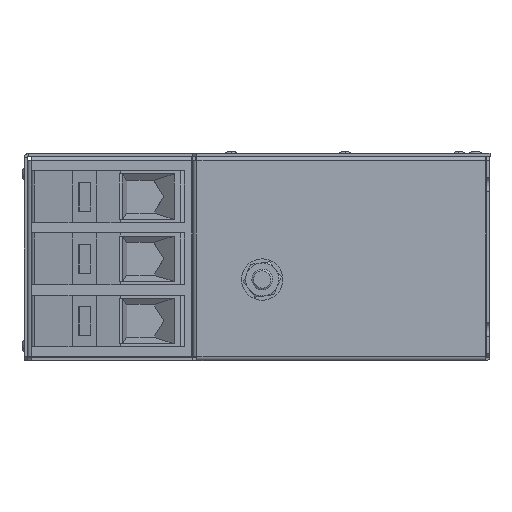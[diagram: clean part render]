
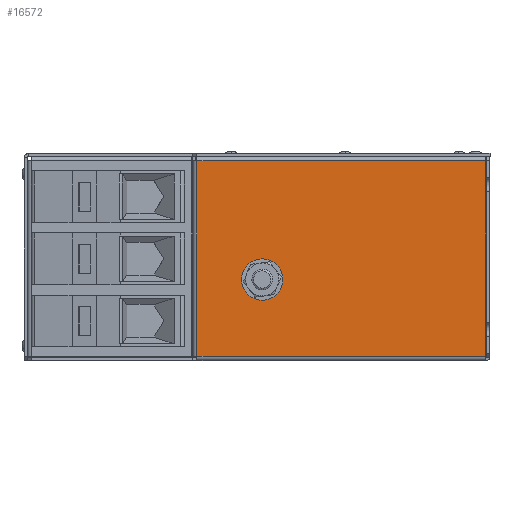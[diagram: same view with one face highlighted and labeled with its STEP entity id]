
A CAD part, left-side view. The second image highlights one B-rep face of the part: STEP entity #16572.
In plain terms, the highlighted planar face has unit normal (-1, 0, 0).
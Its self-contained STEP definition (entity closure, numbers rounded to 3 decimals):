
#55 = DIRECTION ( 'NONE',  ( 0., 0., 1. ) ) ;
#647 = EDGE_LOOP ( 'NONE', ( #3849, #12238 ) ) ;
#891 = VERTEX_POINT ( 'NONE', #7997 ) ;
#1794 = VERTEX_POINT ( 'NONE', #3726 ) ;
#2110 = VECTOR ( 'NONE', #55, 1000. ) ;
#2118 = DIRECTION ( 'NONE',  ( 1., 0., 0. ) ) ;
#2124 = ORIENTED_EDGE ( 'NONE', *, *, #4288, .T. ) ;
#2685 = LINE ( 'NONE', #13829, #11761 ) ;
#3524 = FACE_BOUND ( 'NONE', #647, .T. ) ;
#3726 = CARTESIAN_POINT ( 'NONE',  ( -133.5, 140., 46.5 ) ) ;
#3849 = ORIENTED_EDGE ( 'NONE', *, *, #16853, .T. ) ;
#3901 = EDGE_CURVE ( 'NONE', #9492, #11484, #6508, .T. ) ;
#4288 = EDGE_CURVE ( 'NONE', #891, #1794, #2685, .T. ) ;
#4393 = LINE ( 'NONE', #11983, #2110 ) ;
#5232 = CARTESIAN_POINT ( 'NONE',  ( -133.5, 108.5, -5.854 ) ) ;
#5676 = DIRECTION ( 'NONE',  ( 0., 1., 0. ) ) ;
#6413 = ORIENTED_EDGE ( 'NONE', *, *, #16377, .T. ) ;
#6508 = LINE ( 'NONE', #9849, #7766 ) ;
#6868 = CIRCLE ( 'NONE', #7032, 5. ) ;
#7032 = AXIS2_PLACEMENT_3D ( 'NONE', #7527, #2118, #8710 ) ;
#7222 = CARTESIAN_POINT ( 'NONE',  ( -133.5, 140., -48. ) ) ;
#7527 = CARTESIAN_POINT ( 'NONE',  ( -133.5, 108.5, -10.854 ) ) ;
#7735 = FACE_OUTER_BOUND ( 'NONE', #10064, .T. ) ;
#7766 = VECTOR ( 'NONE', #16718, 1000. ) ;
#7997 = CARTESIAN_POINT ( 'NONE',  ( -133.5, 0.5, 46.5 ) ) ;
#8479 = PLANE ( 'NONE',  #9192 ) ;
#8710 = DIRECTION ( 'NONE',  ( 0., 0., -1. ) ) ;
#9192 = AXIS2_PLACEMENT_3D ( 'NONE', #16790, #11373, #15423 ) ;
#9492 = VERTEX_POINT ( 'NONE', #13660 ) ;
#9849 = CARTESIAN_POINT ( 'NONE',  ( -133.5, 142., -48. ) ) ;
#10064 = EDGE_LOOP ( 'NONE', ( #2124, #6413, #13339, #15221 ) ) ;
#11373 = DIRECTION ( 'NONE',  ( 1., 0., 0. ) ) ;
#11484 = VERTEX_POINT ( 'NONE', #7222 ) ;
#11531 = VERTEX_POINT ( 'NONE', #14818 ) ;
#11761 = VECTOR ( 'NONE', #5676, 1000. ) ;
#11895 = EDGE_CURVE ( 'NONE', #13017, #11531, #6868, .T. ) ;
#11983 = CARTESIAN_POINT ( 'NONE',  ( -133.5, 0.5, 0. ) ) ;
#12152 = CIRCLE ( 'NONE', #17303, 5. ) ;
#12238 = ORIENTED_EDGE ( 'NONE', *, *, #11895, .T. ) ;
#12831 = LINE ( 'NONE', #16096, #14902 ) ;
#13017 = VERTEX_POINT ( 'NONE', #5232 ) ;
#13339 = ORIENTED_EDGE ( 'NONE', *, *, #3901, .F. ) ;
#13493 = DIRECTION ( 'NONE',  ( 0., 0., -1. ) ) ;
#13660 = CARTESIAN_POINT ( 'NONE',  ( -133.5, 0.5, -48. ) ) ;
#13829 = CARTESIAN_POINT ( 'NONE',  ( -133.5, 0.5, 46.5 ) ) ;
#14271 = EDGE_CURVE ( 'NONE', #9492, #891, #4393, .T. ) ;
#14435 = CARTESIAN_POINT ( 'NONE',  ( -133.5, 108.5, -10.854 ) ) ;
#14818 = CARTESIAN_POINT ( 'NONE',  ( -133.5, 108.5, -15.854 ) ) ;
#14902 = VECTOR ( 'NONE', #13493, 1000. ) ;
#15221 = ORIENTED_EDGE ( 'NONE', *, *, #14271, .T. ) ;
#15423 = DIRECTION ( 'NONE',  ( 0., 0., -1. ) ) ;
#16006 = DIRECTION ( 'NONE',  ( 0., 0., -1. ) ) ;
#16096 = CARTESIAN_POINT ( 'NONE',  ( -133.5, 140., 48.5 ) ) ;
#16377 = EDGE_CURVE ( 'NONE', #1794, #11484, #12831, .T. ) ;
#16572 = ADVANCED_FACE ( 'NONE', ( #3524, #7735 ), #8479, .F. ) ;
#16718 = DIRECTION ( 'NONE',  ( 0., 1., 0. ) ) ;
#16790 = CARTESIAN_POINT ( 'NONE',  ( -133.5, 0., 0. ) ) ;
#16853 = EDGE_CURVE ( 'NONE', #11531, #13017, #12152, .T. ) ;
#17258 = DIRECTION ( 'NONE',  ( 1., 0., 0. ) ) ;
#17303 = AXIS2_PLACEMENT_3D ( 'NONE', #14435, #17258, #16006 ) ;
